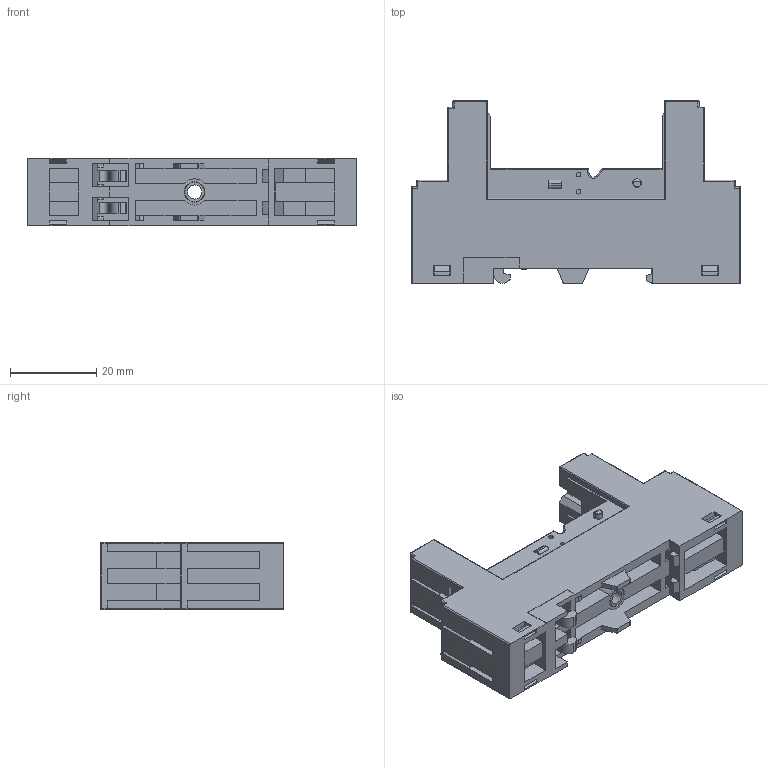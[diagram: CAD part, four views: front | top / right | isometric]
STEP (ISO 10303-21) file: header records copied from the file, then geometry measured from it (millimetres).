
FILE_DESCRIPTION (( 'STEP AP203' ), '1' );
FILE_NAME ('SRB05-E 俋倛.STEP', '2023-01-12T05:52:56', ( '' ), ( '' ), 'SwSTEP 2.0', 'SolidWorks 2018', '' );
FILE_SCHEMA (( 'CONFIG_CONTROL_DESIGN' ));
Length unit declared in the file: millimetre
Products named in the file (1): SRB05-E 俋倛
Bounding box: 76.4 x 42.5 x 15.8 mm (x, y, z)
Volume: 28662.3 mm3; surface area: 12876.8 mm2
Topology: 1 solids, 1 shells, 718 faces, 1916 edges, 1218 vertices
Faces by surface type: plane 479, cylinder 142, torus 53, cone 24, sphere 12, bspline 8
Entity records: 23153 total; most frequent: CARTESIAN_POINT 5411, ORIENTED_EDGE 3788, DIRECTION 3500, EDGE_CURVE 1894, LINE 1366, VECTOR 1366, VERTEX_POINT 1218, AXIS2_PLACEMENT_3D 1067
